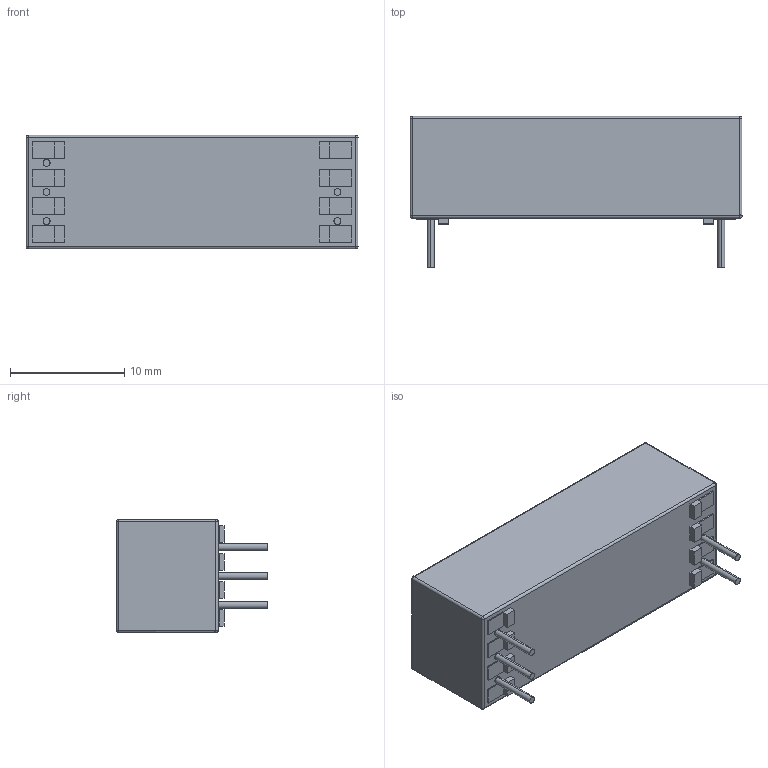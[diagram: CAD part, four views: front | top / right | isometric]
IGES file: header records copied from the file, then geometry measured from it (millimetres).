
Start section: SolidWorks IGES file using analytic representation for surfaces
Global section: file name: T:\Relays in Solidworks\Batch 3\88-1-C.IGS; native system: SolidWorks 2009; preprocessor: SolidWorks 2009; author: alex.leming; date: 100629.143643; units: millimetre
Bounding box: 29 x 13.2 x 9.9 mm (x, y, z)
Surface area: 1311.7 mm2 (no closed solid volume)
Topology: 0 solids, 0 shells, 773 faces, 7737 edges, 7730 vertices
Faces by surface type: bspline 737, revolution 36
